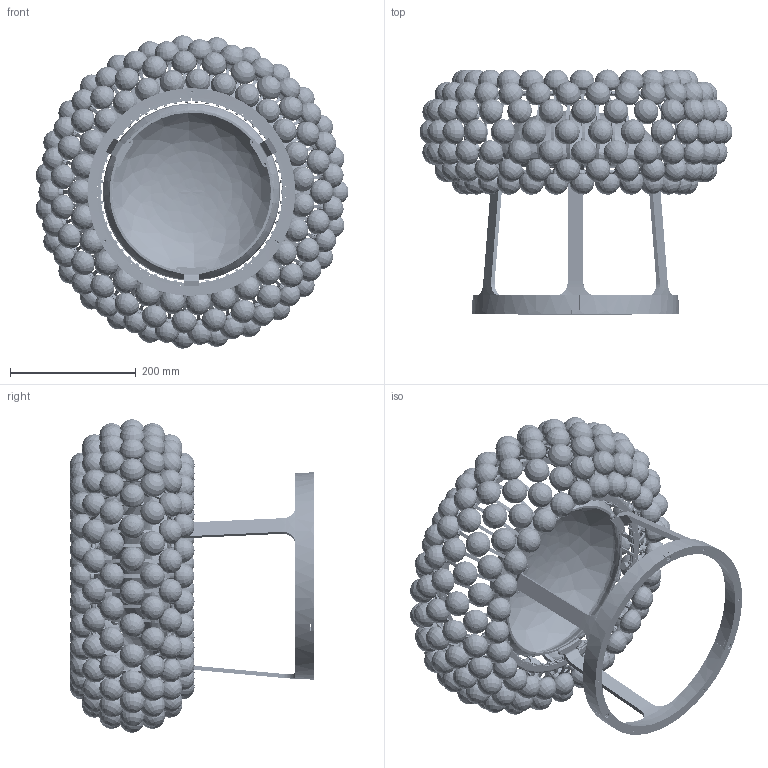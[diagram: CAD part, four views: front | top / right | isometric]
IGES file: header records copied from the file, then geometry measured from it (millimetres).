
Start section: SolidWorks IGES file using analytic representation for surfaces
Global section: file name: X:\stage\CABOCHE\CABOCHE GRANDE TAVOLO.IGS; native system: SolidWorks 2006 by SolidWorks Corporation; preprocessor: SolidWorks 2006 by SolidWorks Corporation; author: stagetec; date: 061002.084327; units: millimetre
Bounding box: 497.34 x 388.86 x 498.19 mm (x, y, z)
Volume: 6975461.8 mm3; surface area: 1719759.3 mm2
Topology: 275 solids, 275 shells, 32256 faces, 85920 edges, 50317 vertices
Faces by surface type: revolution 20424, plane 9225, bspline 2607
